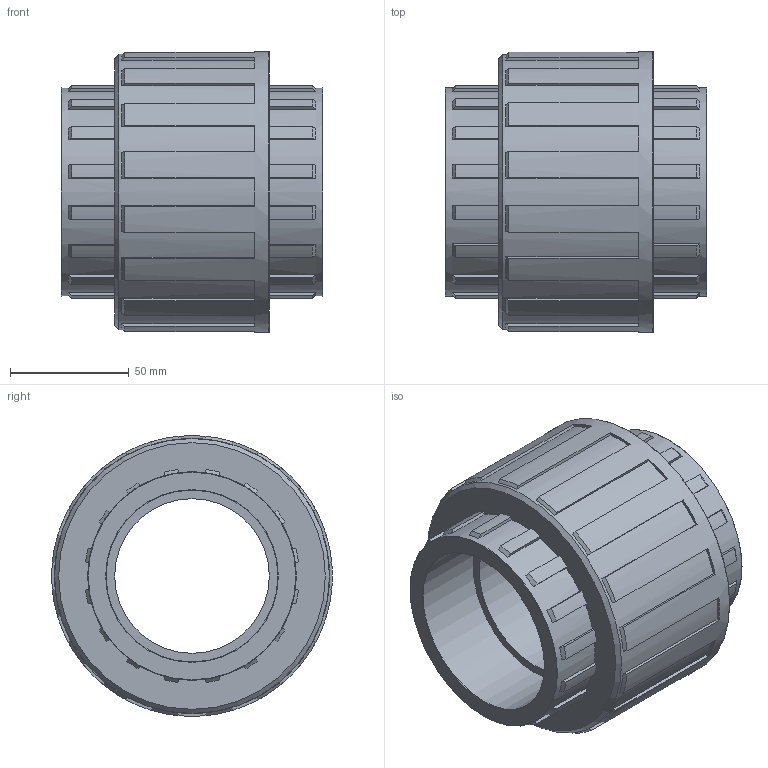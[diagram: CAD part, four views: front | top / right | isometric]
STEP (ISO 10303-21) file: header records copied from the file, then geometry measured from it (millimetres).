
FILE_DESCRIPTION(/* description */ ('PLASSON THR.UNION+O RING PVC 2 1/2'''''),/* implementation_level */ '2;1');
FILE_NAME(/* name */ 'C:\Dropbox\KIMPROJECTS-Inventor\99-16-3568-Processing\PVC Catalog 2017\050801\050801025.ipt.stp',/* time_stamp */ '2017-12-07T15:58:09+02:00',/* author */ ('KIM'),/* organization */ (''),/* preprocessor_version */ 'ST-DEVELOPER v15.6',/* originating_system */ 'Autodesk Inventor 2015',/* authorisation */ '');
FILE_SCHEMA (('AUTOMOTIVE_DESIGN { 1 0 10303 214 3 1 1 }'));
Length unit declared in the file: millimetre
Products named in the file (1): 050801025
Bounding box: 110 x 118 x 118 mm (x, y, z)
Volume: 560536.5 mm3; surface area: 78376.3 mm2
Topology: 1 solids, 1 shells, 211 faces, 609 edges, 404 vertices
Faces by surface type: plane 118, cone 49, cylinder 39, torus 5
Full cylindrical faces by diameter (mm): 65.003 x1, 72.226 x2, 87.574 x2, 115.64 x1, 118 x1
Entity records: 6910 total; most frequent: DIRECTION 1224, CARTESIAN_POINT 1204, ORIENTED_EDGE 1184, EDGE_CURVE 592, AXIS2_PLACEMENT_3D 420, VERTEX_POINT 400, LINE 384, VECTOR 384
